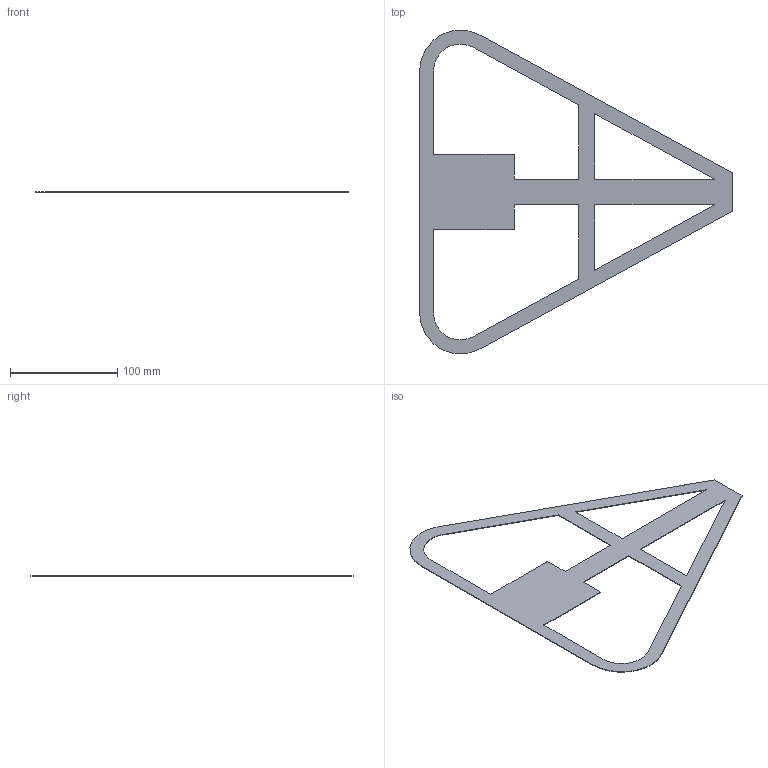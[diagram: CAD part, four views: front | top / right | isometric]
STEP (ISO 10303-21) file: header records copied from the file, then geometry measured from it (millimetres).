
FILE_DESCRIPTION(('STEP AP203'), '1');
FILE_NAME('øàáëîí ìàñêó', '', ('UNSPECIFIED'), ('UNSPECIFIED'), 'ASCON STEP Converter 1.3', 'ASCON Math Kernel', '');
FILE_SCHEMA(('CONFIG_CONTROL_DESIGN'));
Length unit declared in the file: millimetre
Bounding box: 291 x 301.22 x 0.6 mm (x, y, z)
Volume: 14156 mm3; surface area: 48679.8 mm2
Topology: 1 solids, 1 shells, 28 faces, 78 edges, 52 vertices
Faces by surface type: plane 24, cylinder 4
Entity records: 1174 total; most frequent: CARTESIAN_POINT 159, ORIENTED_EDGE 156, DIRECTION 144, EDGE_CURVE 78, LINE 70, VECTOR 70, VERTEX_POINT 52, AXIS2_PLACEMENT_3D 37
